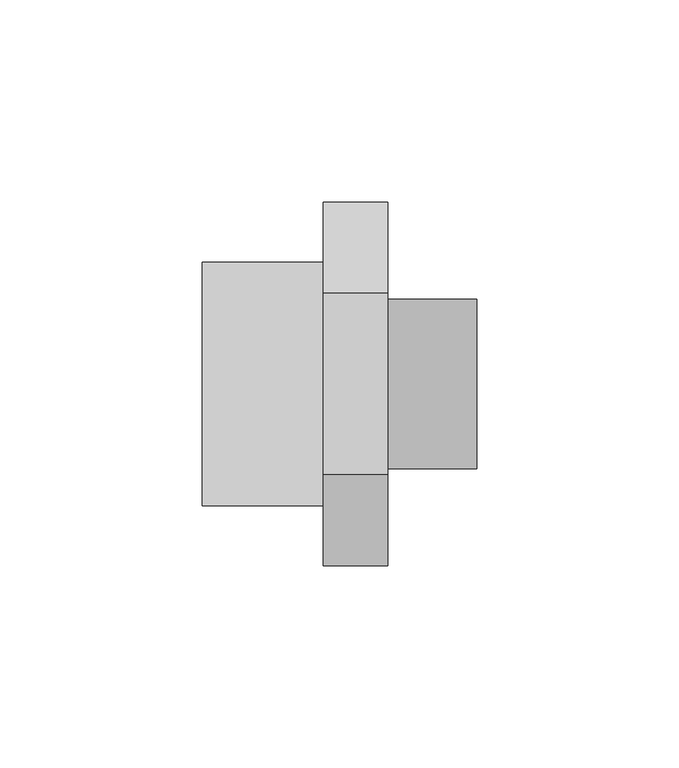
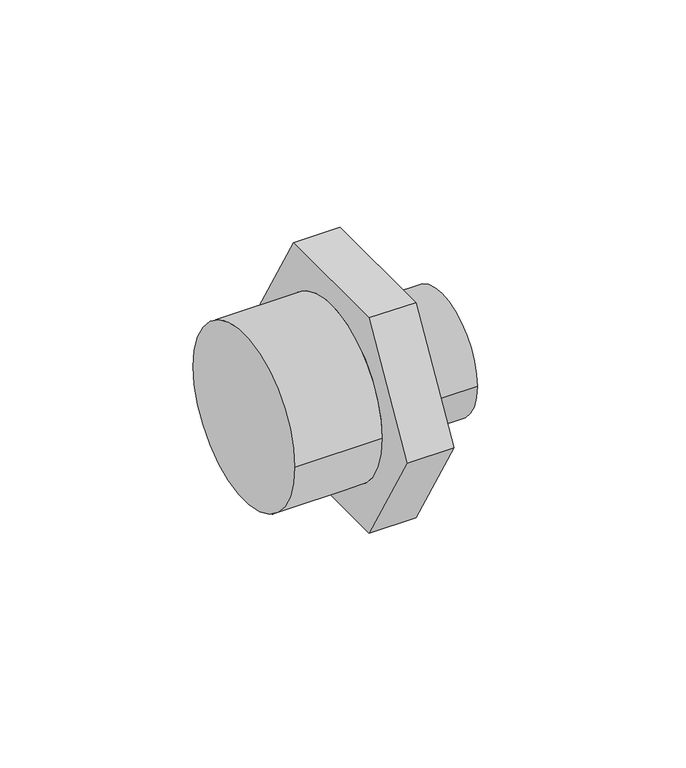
"""IFC4 building model written with IfcOpenShell, lengths in millimetres: pipe fitting geometry, 01011197 : Mamelons doubles réduction."""

from ifc_helpers import new_model, si_unit, frame, origin, place, context, project, spatial, circle_curve, source, transform, mapped, element, save
from ifc_brep_helpers import plane_surface, cylinder_surface, advanced_brep


def pipe_fitting_32ad6e20(model_context):
    return source(origin(), model_context, "Body", "AdvancedBrep", [
        advanced_brep(
        [(46.0, -22.5166605, 39.0), (46.0, -45.033321, 0.0), (46.0, -22.5166605, -39.0), (46.0, 22.5166605, -39.0), (46.0, 45.033321, 0.0), (46.0, 22.5166605, 39.0), (46.0, -20.955, 0.0), (46.0, 20.955, 0.0), (30.0, -22.5166605, 39.0), (30.0, 22.5166605, 39.0), (30.0, 45.033321, 0.0), (30.0, 22.5166605, -39.0), (30.0, -22.5166605, -39.0), (30.0, -45.033321, 0.0), (30.0, 30.1625, 0.0), (30.0, -30.1625, 0.0), (68.0, -20.955, 0.0), (68.0, 20.955, 0.0), (0.0, 30.1625, 0.0), (0.0, -30.1625, 0.0)],
        [
            (0, 1),
            (1, 2),
            (2, 3),
            (3, 4),
            (4, 5),
            (5, 0),
            (6, 7, circle_curve(frame((46.0, 0.0, 0.0), z_axis=(-1.0, 0.0, 0.0), x_axis=(0.0, 1.0, 0.0)), 20.955)),
            (7, 6, circle_curve(frame((46.0, 0.0, 0.0), z_axis=(-1.0, 0.0, 0.0), x_axis=(0.0, 1.0, 0.0)), 20.955)),
            (8, 9),
            (9, 10),
            (10, 11),
            (11, 12),
            (12, 13),
            (13, 8),
            (14, 15, circle_curve(frame((30.0, 0.0, 0.0), z_axis=(1.0, 0.0, 0.0), x_axis=(0.0, -1.0, 0.0)), 30.1625)),
            (15, 14, circle_curve(frame((30.0, 0.0, 0.0), z_axis=(1.0, 0.0, 0.0), x_axis=(0.0, -1.0, 0.0)), 30.1625)),
            (0, 8),
            (13, 1),
            (12, 2),
            (11, 3),
            (10, 4),
            (9, 5),
            (16, 17, circle_curve(frame((68.0, 0.0, 0.0), z_axis=(1.0, 0.0, 0.0), x_axis=(0.0, 1.0, 0.0)), 20.955)),
            (17, 16, circle_curve(frame((68.0, 0.0, 0.0), z_axis=(1.0, 0.0, 0.0), x_axis=(0.0, 1.0, 0.0)), 20.955)),
            (17, 7),
            (6, 16),
            (18, 19, circle_curve(frame((0.0, 0.0, 0.0), z_axis=(-1.0, 0.0, 0.0), x_axis=(0.0, -1.0, 0.0)), 30.1625)),
            (19, 18, circle_curve(frame((0.0, 0.0, 0.0), z_axis=(-1.0, 0.0, 0.0), x_axis=(0.0, -1.0, 0.0)), 30.1625)),
            (19, 15),
            (14, 18),
        ],
        [
            plane_surface(frame((46.0, -22.5166605, 39.0), z_axis=(1.0, 0.0, 0.0), x_axis=(0.0, -0.5000000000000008, -0.8660254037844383))),
            plane_surface(frame((30.0, -22.5166605, 39.0), z_axis=(-1.0, 0.0, 0.0), x_axis=(0.0, 0.5000000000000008, 0.8660254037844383))),
            plane_surface(frame((46.0, -22.5166605, 39.0), z_axis=(0.0, -0.8660254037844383, 0.5000000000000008), x_axis=(-1.0, 0.0, 0.0))),
            plane_surface(frame((46.0, -45.033321, 0.0), z_axis=(0.0, -0.8660254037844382, -0.500000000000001), x_axis=(-1.0, 0.0, 0.0))),
            plane_surface(frame((46.0, -22.5166605, -39.0), z_axis=(0.0, 0.0, -1.0), x_axis=(-1.0, 0.0, 0.0))),
            plane_surface(frame((46.0, 22.5166605, -39.0), z_axis=(0.0, 0.8660254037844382, -0.500000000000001), x_axis=(-1.0, 0.0, 0.0))),
            plane_surface(frame((46.0, 45.033321, 0.0), z_axis=(0.0, 0.866025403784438, 0.500000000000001), x_axis=(-1.0, 0.0, 0.0))),
            plane_surface(frame((46.0, 22.5166605, 39.0), z_axis=(0.0, 0.0, 1.0), x_axis=(-1.0, 0.0, 0.0))),
            plane_surface(frame((68.0, 0.0, 0.0), z_axis=(1.0, 0.0, 0.0), x_axis=(0.0, 0.0, 1.0))),
            cylinder_surface(frame((46.0, 0.0, 0.0), z_axis=(-1.0, 0.0, 0.0), x_axis=(0.0, 1.0, 0.0)), 20.955),
            plane_surface(frame((0.0, 0.0, 0.0), z_axis=(-1.0, 0.0, 0.0), x_axis=(0.0, 0.0, 1.0))),
            cylinder_surface(frame((30.0, 0.0, 0.0), z_axis=(1.0, 0.0, 0.0), x_axis=(0.0, -1.0, 0.0)), 30.1625),
        ],
        [
            (0, [[1, 2, 3, 4, 5, 6], [7, 8]]),
            (1, [[9, 10, 11, 12, 13, 14], [15, 16]]),
            (2, [[-1, 17, -14, 18]]),
            (3, [[-2, -18, -13, 19]]),
            (4, [[-3, -19, -12, 20]]),
            (5, [[-4, -20, -11, 21]]),
            (6, [[-5, -21, -10, 22]]),
            (7, [[-6, -22, -9, -17]]),
            (8, [[23, 24]]),
            (9, [[-24, 25, -7, 26]]),
            (9, [[-23, -26, -8, -25]]),
            (10, [[27, 28]]),
            (11, [[-28, 29, -15, 30]]),
            (11, [[-27, -30, -16, -29]]),
        ],
    ),
    ])


if __name__ == "__main__":
    model = new_model("IFC4")
    model_context = context("Model", 3, world=origin())
    ifc_project = project(units=[si_unit("LENGTHUNIT", "METRE", prefix="MILLI")], contexts=[model_context])
    site = spatial("IfcSite", under=ifc_project)
    building = spatial("IfcBuilding", under=site)
    placement = place(None, origin())
    pipe_fitting_shape = pipe_fitting_32ad6e20(model_context)
    element("IfcPipeFitting", 1, ObjectType="01011197 : Mamelons doubles réduction", at=placement, inside=building, context=model_context, shape_type="MappedRepresentation", body=[
        mapped(pipe_fitting_shape, transform((0.0, 0.0, 0.0), x_axis=(1.0, 0.0, 0.0), y_axis=(0.0, 1.0, 0.0), z_axis=(0.0, 0.0, 1.0))),
    ])
    save(model, "model.ifc")
